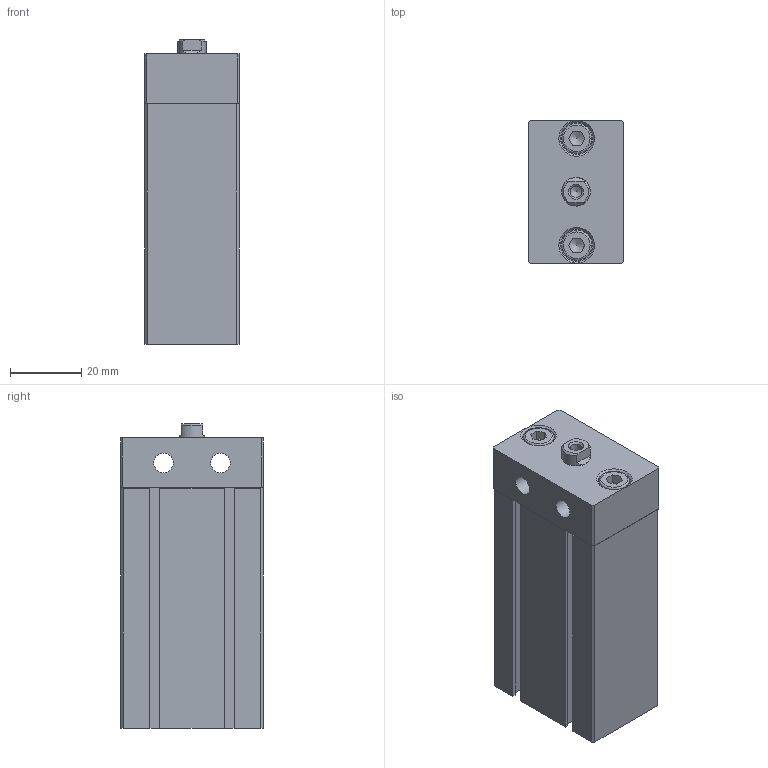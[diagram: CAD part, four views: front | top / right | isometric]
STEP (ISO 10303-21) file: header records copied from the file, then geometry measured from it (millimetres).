
FILE_DESCRIPTION((''),'2;1');
FILE_NAME('I:\3D電子目錄\氣缸\ND\ND\ND20\ND20x40.stp','2007-07-23T20:09:45',('Administrator'),(''),'Autodesk Inventor 11','Autodesk Inventor 11','');
FILE_SCHEMA(('AUTOMOTIVE_DESIGN { 1 0 10303 214 1 1 1 1 }'));
Length unit declared in the file: millimetre
Products named in the file (4): ND20; R 形環 22; ISO 4762 M5 x 10
Assembly tree (4 placements, depth 2):
  ND20
    ND20
    R 形環 22
    ISO 4762 M5 x 10  x2
Bounding box: 26.4 x 40.1 x 85.5 mm (x, y, z)
Volume: 77002 mm3; surface area: 20379.1 mm2
Topology: 5 solids, 5 shells, 160 faces, 400 edges, 257 vertices
Faces by surface type: plane 101, cylinder 26, bspline 16, cone 14, torus 3
Full cylindrical faces by diameter (mm): 1.5 x4, 5 x2, 5.5 x2, 8.5 x2, 9 x2, 13 x1, 21 x1
Entity records: 4401 total; most frequent: CARTESIAN_POINT 948, DIRECTION 676, ORIENTED_EDGE 654, EDGE_CURVE 327, VECTOR 234, LINE 234, VERTEX_POINT 231, AXIS2_PLACEMENT_3D 221
